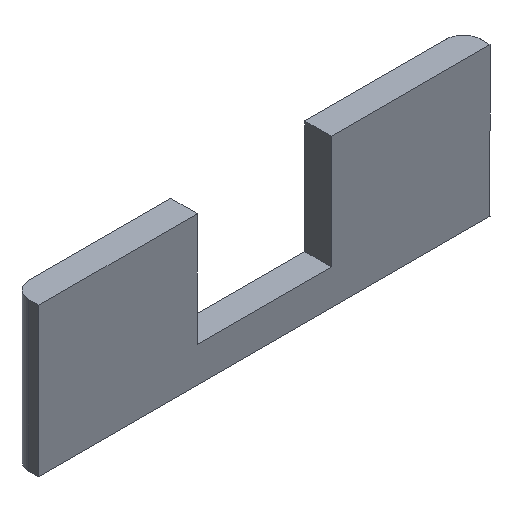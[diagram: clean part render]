
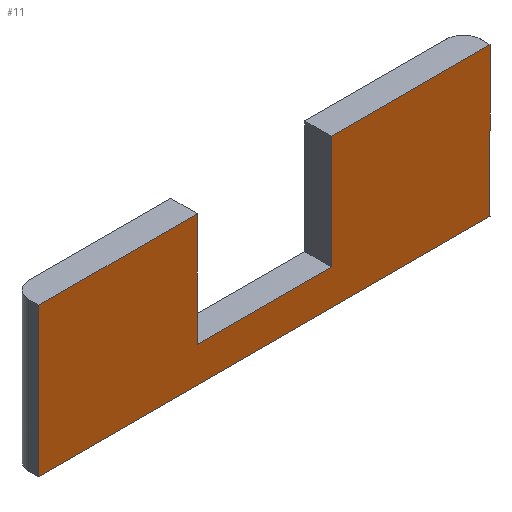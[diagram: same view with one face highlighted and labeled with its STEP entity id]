
A CAD part, isometric view. The second image highlights one B-rep face of the part: STEP entity #11.
In plain terms, the highlighted planar face has unit normal (0, -1, 0).
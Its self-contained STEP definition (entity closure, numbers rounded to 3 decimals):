
#11 = ADVANCED_FACE ( 'NONE', ( #214 ), #313, .T. ) ;
#19 = VECTOR ( 'NONE', #328, 1000. ) ;
#20 = LINE ( 'NONE', #340, #40 ) ;
#21 = VECTOR ( 'NONE', #244, 1000. ) ;
#26 = LINE ( 'NONE', #252, #21 ) ;
#30 = VECTOR ( 'NONE', #231, 1000. ) ;
#32 = LINE ( 'NONE', #351, #19 ) ;
#37 = VECTOR ( 'NONE', #260, 1000. ) ;
#38 = LINE ( 'NONE', #262, #67 ) ;
#40 = VECTOR ( 'NONE', #341, 1000. ) ;
#43 = LINE ( 'NONE', #332, #59 ) ;
#59 = VECTOR ( 'NONE', #337, 1000. ) ;
#63 = LINE ( 'NONE', #311, #30 ) ;
#67 = VECTOR ( 'NONE', #268, 1000. ) ;
#79 = LINE ( 'NONE', #379, #87 ) ;
#87 = VECTOR ( 'NONE', #385, 1000. ) ;
#89 = LINE ( 'NONE', #344, #37 ) ;
#99 = EDGE_CURVE ( 'NONE', #276, #296, #26, .T. ) ;
#107 = EDGE_CURVE ( 'NONE', #281, #397, #43, .T. ) ;
#109 = EDGE_CURVE ( 'NONE', #278, #287, #63, .T. ) ;
#113 = EDGE_CURVE ( 'NONE', #397, #276, #20, .T. ) ;
#115 = EDGE_CURVE ( 'NONE', #296, #278, #89, .T. ) ;
#124 = EDGE_CURVE ( 'NONE', #281, #315, #32, .T. ) ;
#126 = AXIS2_PLACEMENT_3D ( 'NONE', #375, #372, #358 ) ;
#129 = EDGE_CURVE ( 'NONE', #315, #280, #38, .T. ) ;
#146 = EDGE_CURVE ( 'NONE', #280, #287, #79, .T. ) ;
#149 = ORIENTED_EDGE ( 'NONE', *, *, #113, .F. ) ;
#161 = ORIENTED_EDGE ( 'NONE', *, *, #109, .F. ) ;
#162 = ORIENTED_EDGE ( 'NONE', *, *, #115, .F. ) ;
#163 = EDGE_LOOP ( 'NONE', ( #176, #183, #195, #201, #161, #162, #177, #149 ) ) ;
#176 = ORIENTED_EDGE ( 'NONE', *, *, #107, .F. ) ;
#177 = ORIENTED_EDGE ( 'NONE', *, *, #99, .F. ) ;
#183 = ORIENTED_EDGE ( 'NONE', *, *, #124, .T. ) ;
#195 = ORIENTED_EDGE ( 'NONE', *, *, #129, .T. ) ;
#201 = ORIENTED_EDGE ( 'NONE', *, *, #146, .T. ) ;
#214 = FACE_OUTER_BOUND ( 'NONE', #163, .T. ) ;
#231 = DIRECTION ( 'NONE',  ( -1., 0., 0. ) ) ;
#234 = CARTESIAN_POINT ( 'NONE',  ( -10.1, 0., 22.4 ) ) ;
#236 = CARTESIAN_POINT ( 'NONE',  ( 10.1, 0., 5.35 ) ) ;
#244 = DIRECTION ( 'NONE',  ( 1., 0., 0. ) ) ;
#252 = CARTESIAN_POINT ( 'NONE',  ( 34., 0., 22.4 ) ) ;
#260 = DIRECTION ( 'NONE',  ( 0., 0., -1. ) ) ;
#262 = CARTESIAN_POINT ( 'NONE',  ( -34., 0., 22.4 ) ) ;
#268 = DIRECTION ( 'NONE',  ( -1., 0., 0. ) ) ;
#276 = VERTEX_POINT ( 'NONE', #388 ) ;
#278 = VERTEX_POINT ( 'NONE', #387 ) ;
#280 = VERTEX_POINT ( 'NONE', #391 ) ;
#281 = VERTEX_POINT ( 'NONE', #386 ) ;
#287 = VERTEX_POINT ( 'NONE', #305 ) ;
#296 = VERTEX_POINT ( 'NONE', #310 ) ;
#305 = CARTESIAN_POINT ( 'NONE',  ( -34., 0., 0. ) ) ;
#310 = CARTESIAN_POINT ( 'NONE',  ( 34., 0., 22.4 ) ) ;
#311 = CARTESIAN_POINT ( 'NONE',  ( 0., 0., 0. ) ) ;
#313 = PLANE ( 'NONE',  #126 ) ;
#315 = VERTEX_POINT ( 'NONE', #234 ) ;
#328 = DIRECTION ( 'NONE',  ( 0., 0., 1. ) ) ;
#332 = CARTESIAN_POINT ( 'NONE',  ( 10.1, 0., 5.35 ) ) ;
#337 = DIRECTION ( 'NONE',  ( 1., 0., 0. ) ) ;
#340 = CARTESIAN_POINT ( 'NONE',  ( 10.1, 0., 22.4 ) ) ;
#341 = DIRECTION ( 'NONE',  ( 0., 0., 1. ) ) ;
#344 = CARTESIAN_POINT ( 'NONE',  ( 34., 0., 0. ) ) ;
#351 = CARTESIAN_POINT ( 'NONE',  ( -10.1, 0., 22.4 ) ) ;
#358 = DIRECTION ( 'NONE',  ( 0., 0., -1. ) ) ;
#372 = DIRECTION ( 'NONE',  ( 0., -1., 0. ) ) ;
#375 = CARTESIAN_POINT ( 'NONE',  ( 0., 0., 0. ) ) ;
#379 = CARTESIAN_POINT ( 'NONE',  ( -34., 0., 0. ) ) ;
#385 = DIRECTION ( 'NONE',  ( 0., 0., -1. ) ) ;
#386 = CARTESIAN_POINT ( 'NONE',  ( -10.1, 0., 5.35 ) ) ;
#387 = CARTESIAN_POINT ( 'NONE',  ( 34., 0., 0. ) ) ;
#388 = CARTESIAN_POINT ( 'NONE',  ( 10.1, 0., 22.4 ) ) ;
#391 = CARTESIAN_POINT ( 'NONE',  ( -34., 0., 22.4 ) ) ;
#397 = VERTEX_POINT ( 'NONE', #236 ) ;
